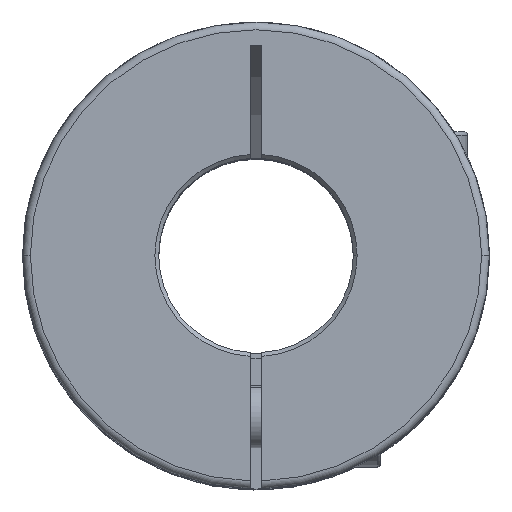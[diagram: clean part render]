
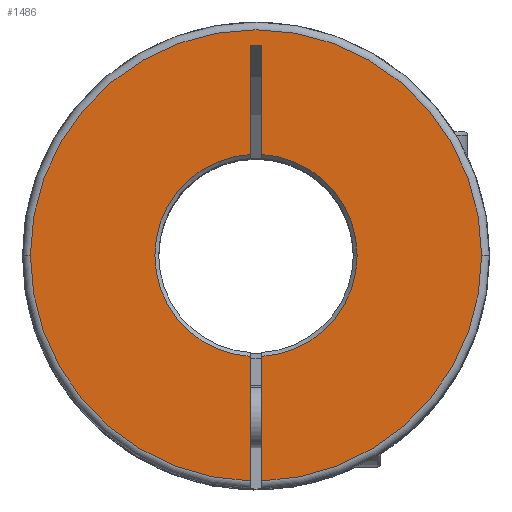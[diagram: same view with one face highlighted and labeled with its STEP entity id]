
A CAD part, top view. The second image highlights one B-rep face of the part: STEP entity #1486.
In plain terms, the highlighted planar face has unit normal (0, 0, 1).
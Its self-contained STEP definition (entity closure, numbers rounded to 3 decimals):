
#220 = ORIENTED_EDGE ( 'NONE', *, *, #1845, .T. ) ;
#225 = ORIENTED_EDGE ( 'NONE', *, *, #2159, .T. ) ;
#262 = ORIENTED_EDGE ( 'NONE', *, *, #2080, .T. ) ;
#382 = ORIENTED_EDGE ( 'NONE', *, *, #1851, .T. ) ;
#423 = ORIENTED_EDGE ( 'NONE', *, *, #1847, .T. ) ;
#470 = ORIENTED_EDGE ( 'NONE', *, *, #1848, .T. ) ;
#471 = ORIENTED_EDGE ( 'NONE', *, *, #1849, .T. ) ;
#483 = ORIENTED_EDGE ( 'NONE', *, *, #1846, .F. ) ;
#629 = ORIENTED_EDGE ( 'NONE', *, *, #2120, .T. ) ;
#642 = ORIENTED_EDGE ( 'NONE', *, *, #1844, .F. ) ;
#648 = ORIENTED_EDGE ( 'NONE', *, *, #1850, .T. ) ;
#686 = CARTESIAN_POINT ( 'NONE',  ( -9.699, 7.278, 44. ) ) ;
#687 = CARTESIAN_POINT ( 'NONE',  ( -8.199, 21.3, 44. ) ) ;
#688 = CARTESIAN_POINT ( 'NONE',  ( -9.699, -18.678, 44. ) ) ;
#690 = CARTESIAN_POINT ( 'NONE',  ( -8.199, -18.678, 44. ) ) ;
#709 = CARTESIAN_POINT ( 'NONE',  ( 20.051, -5.7, 44. ) ) ;
#925 = CARTESIAN_POINT ( 'NONE',  ( -8.949, -5.7, 44. ) ) ;
#926 = DIRECTION ( 'NONE',  ( 0., 0., 1. ) ) ;
#927 = DIRECTION ( 'NONE',  ( 1., 0., 0. ) ) ;
#1005 = CARTESIAN_POINT ( 'NONE',  ( -8.949, -5.7, 44. ) ) ;
#1006 = DIRECTION ( 'NONE',  ( 0., 0., 1. ) ) ;
#1007 = DIRECTION ( 'NONE',  ( 1., 0., 0. ) ) ;
#1013 = CARTESIAN_POINT ( 'NONE',  ( -37.949, -5.7, 44. ) ) ;
#1022 = CARTESIAN_POINT ( 'NONE',  ( -8.199, 7.278, 44. ) ) ;
#1064 = CARTESIAN_POINT ( 'NONE',  ( 4.051, -5.7, 44. ) ) ;
#1070 = CARTESIAN_POINT ( 'NONE',  ( -8.199, -34.69, 44. ) ) ;
#1091 = CARTESIAN_POINT ( 'NONE',  ( -9.699, -34.69, 44. ) ) ;
#1147 = CARTESIAN_POINT ( 'NONE',  ( -9.699, 21.3, 44. ) ) ;
#1486 = ADVANCED_FACE ( 'NONE', ( #4051 ), #4926, .T. ) ;
#1844 = EDGE_CURVE ( 'NONE', #4440, #4598, #2693, .T. ) ;
#1845 = EDGE_CURVE ( 'NONE', #4433, #4598, #2747, .T. ) ;
#1846 = EDGE_CURVE ( 'NONE', #4377, #4595, #2689, .T. ) ;
#1847 = EDGE_CURVE ( 'NONE', #4536, #4595, #2804, .T. ) ;
#1848 = EDGE_CURVE ( 'NONE', #4594, #4536, #2577, .T. ) ;
#1849 = EDGE_CURVE ( 'NONE', #4596, #4594, #2917, .T. ) ;
#1850 = EDGE_CURVE ( 'NONE', #4463, #4596, #2688, .T. ) ;
#1851 = EDGE_CURVE ( 'NONE', #4382, #4463, #2631, .T. ) ;
#2080 = EDGE_CURVE ( 'NONE', #4377, #4433, #2746, .T. ) ;
#2120 = EDGE_CURVE ( 'NONE', #4440, #4629, #2919, .T. ) ;
#2159 = EDGE_CURVE ( 'NONE', #4629, #4382, #2726, .T. ) ;
#2370 = DIRECTION ( 'NONE',  ( 0., 1., 0. ) ) ;
#2371 = DIRECTION ( 'NONE',  ( 0., 1., 0. ) ) ;
#2372 = DIRECTION ( 'NONE',  ( 0., 1., 0. ) ) ;
#2373 = CARTESIAN_POINT ( 'NONE',  ( -9.699, 21.3, 44. ) ) ;
#2374 = CARTESIAN_POINT ( 'NONE',  ( -8.199, -5.7, 44. ) ) ;
#2375 = CARTESIAN_POINT ( 'NONE',  ( -8.949, -5.7, 44. ) ) ;
#2376 = DIRECTION ( 'NONE',  ( 0., 0., -1. ) ) ;
#2377 = DIRECTION ( 'NONE',  ( 1., 0., 0. ) ) ;
#2378 = CARTESIAN_POINT ( 'NONE',  ( -9.699, -5.7, 44. ) ) ;
#2379 = DIRECTION ( 'NONE',  ( 1., 0., 0. ) ) ;
#2380 = CARTESIAN_POINT ( 'NONE',  ( -9.699, -5.7, 44. ) ) ;
#2381 = DIRECTION ( 'NONE',  ( 0., 1., 0. ) ) ;
#2384 = CARTESIAN_POINT ( 'NONE',  ( -8.949, -5.7, 44. ) ) ;
#2385 = DIRECTION ( 'NONE',  ( 0., 0., -1. ) ) ;
#2386 = DIRECTION ( 'NONE',  ( 1., 0., 0. ) ) ;
#2388 = CARTESIAN_POINT ( 'NONE',  ( -8.949, -5.7, 44. ) ) ;
#2389 = DIRECTION ( 'NONE',  ( 0., 0., 1. ) ) ;
#2390 = DIRECTION ( 'NONE',  ( 1., 0., 0. ) ) ;
#2577 = LINE ( 'NONE', #2380, #2859 ) ;
#2578 = VECTOR ( 'NONE', #2370, 1000. ) ;
#2631 = CIRCLE ( 'NONE', #3317, 29. ) ;
#2632 = VECTOR ( 'NONE', #2371, 1000. ) ;
#2688 = LINE ( 'NONE', #2378, #2802 ) ;
#2689 = LINE ( 'NONE', #2374, #2632 ) ;
#2693 = LINE ( 'NONE', #5529, #2578 ) ;
#2726 = CIRCLE ( 'NONE', #3528, 29. ) ;
#2746 = CIRCLE ( 'NONE', #3435, 13. ) ;
#2747 = CIRCLE ( 'NONE', #3320, 13. ) ;
#2802 = VECTOR ( 'NONE', #2372, 1000. ) ;
#2803 = VECTOR ( 'NONE', #2379, 1000. ) ;
#2804 = LINE ( 'NONE', #2373, #2803 ) ;
#2859 = VECTOR ( 'NONE', #2381, 1000. ) ;
#2917 = CIRCLE ( 'NONE', #3316, 13. ) ;
#2919 = CIRCLE ( 'NONE', #3490, 29. ) ;
#3263 = AXIS2_PLACEMENT_3D ( 'NONE', #4924, #4929, #4930 ) ;
#3316 = AXIS2_PLACEMENT_3D ( 'NONE', #2384, #2385, #2386 ) ;
#3317 = AXIS2_PLACEMENT_3D ( 'NONE', #2388, #2389, #2390 ) ;
#3320 = AXIS2_PLACEMENT_3D ( 'NONE', #2375, #2376, #2377 ) ;
#3435 = AXIS2_PLACEMENT_3D ( 'NONE', #4304, #4305, #4306 ) ;
#3490 = AXIS2_PLACEMENT_3D ( 'NONE', #925, #926, #927 ) ;
#3528 = AXIS2_PLACEMENT_3D ( 'NONE', #1005, #1006, #1007 ) ;
#4051 = FACE_OUTER_BOUND ( 'NONE', #5179, .T. ) ;
#4304 = CARTESIAN_POINT ( 'NONE',  ( -8.949, -5.7, 44. ) ) ;
#4305 = DIRECTION ( 'NONE',  ( 0., 0., -1. ) ) ;
#4306 = DIRECTION ( 'NONE',  ( 1., 0., 0. ) ) ;
#4377 = VERTEX_POINT ( 'NONE', #1022 ) ;
#4382 = VERTEX_POINT ( 'NONE', #1013 ) ;
#4433 = VERTEX_POINT ( 'NONE', #1064 ) ;
#4440 = VERTEX_POINT ( 'NONE', #1070 ) ;
#4463 = VERTEX_POINT ( 'NONE', #1091 ) ;
#4536 = VERTEX_POINT ( 'NONE', #1147 ) ;
#4594 = VERTEX_POINT ( 'NONE', #686 ) ;
#4595 = VERTEX_POINT ( 'NONE', #687 ) ;
#4596 = VERTEX_POINT ( 'NONE', #688 ) ;
#4598 = VERTEX_POINT ( 'NONE', #690 ) ;
#4629 = VERTEX_POINT ( 'NONE', #709 ) ;
#4924 = CARTESIAN_POINT ( 'NONE',  ( -8.949, -5.7, 44. ) ) ;
#4926 = PLANE ( 'NONE',  #3263 ) ;
#4929 = DIRECTION ( 'NONE',  ( 0., 0., 1. ) ) ;
#4930 = DIRECTION ( 'NONE',  ( 1., 0., 0. ) ) ;
#5179 = EDGE_LOOP ( 'NONE', ( #629, #225, #382, #648, #471, #470, #423, #483, #262, #220, #642 ) ) ;
#5529 = CARTESIAN_POINT ( 'NONE',  ( -8.199, -5.7, 44. ) ) ;
